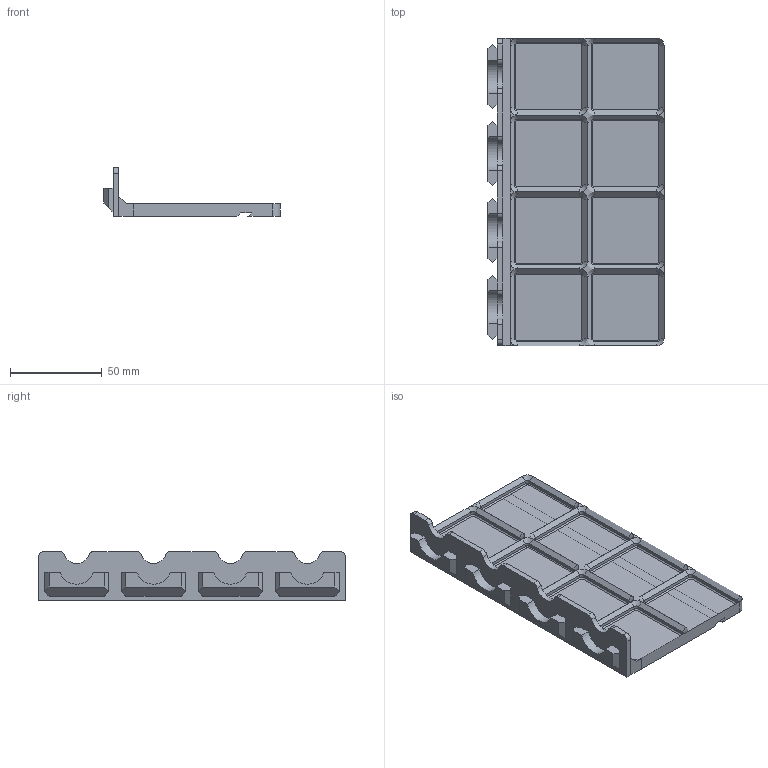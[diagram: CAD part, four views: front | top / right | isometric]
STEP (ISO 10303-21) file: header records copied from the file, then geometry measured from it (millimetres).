
FILE_DESCRIPTION(/* description */ ('','CAx-IF Rec.Pracs.---Representation and Presentation of Product Manufacturing Information (PMI)---4.0---2014-10-13'),/* implementation_level */ '2;1');
FILE_NAME(/* name */ 'Goews Quad Hanger Gridfinity 2x4 Base.step',/* time_stamp */ '2024-11-28T18:03:04-05:00',/* author */ (''),/* organization */ (''),/* preprocessor_version */ 'ST-DEVELOPER v20',/* originating_system */ 'Autodesk Translation Framework v13.20.0.188',/* authorisation */ '');
FILE_SCHEMA (('AP242_MANAGED_MODEL_BASED_3D_ENGINEERING_MIM_LF { 1 0 10303 442 1 1 4 }'));
Length unit declared in the file: millimetre
Products named in the file (2): Goews Quad Hanger Gridfinity 2x4 Base; Component2
Assembly tree (1 placements, depth 2):
  Goews Quad Hanger Gridfinity 2x4 Base
    Component2
Bounding box: 96.15 x 168 x 26.72 mm (x, y, z)
Volume: 65442.6 mm3; surface area: 46218.2 mm2
Topology: 1 solids, 1 shells, 331 faces, 745 edges, 420 vertices
Faces by surface type: plane 185, cylinder 82, cone 64
Entity records: 8970 total; most frequent: DIRECTION 1611, CARTESIAN_POINT 1499, ORIENTED_EDGE 1490, EDGE_CURVE 745, LINE 547, VECTOR 547, AXIS2_PLACEMENT_3D 532, VERTEX_POINT 420
